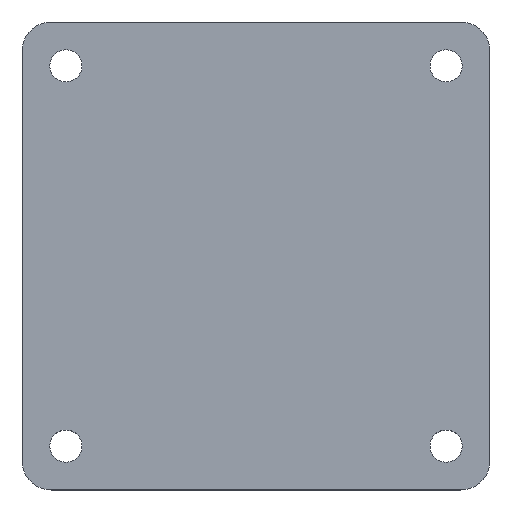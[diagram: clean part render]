
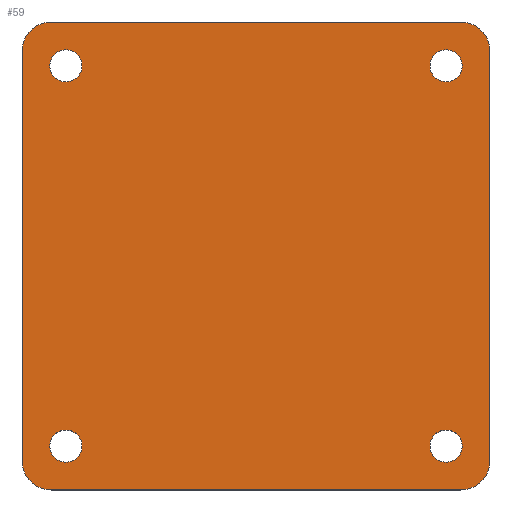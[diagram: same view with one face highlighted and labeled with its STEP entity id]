
A CAD part, top view. The second image highlights one B-rep face of the part: STEP entity #59.
In plain terms, the highlighted planar face has unit normal (0, 0, 1).
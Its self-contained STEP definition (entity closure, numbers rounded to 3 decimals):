
#21 = EDGE_CURVE('',#22,#24,#26,.T.);
#22 = VERTEX_POINT('',#23);
#23 = CARTESIAN_POINT('',(-44.,-22.,-18.8));
#24 = VERTEX_POINT('',#25);
#25 = CARTESIAN_POINT('',(-42.,-24.,-18.8));
#26 = CIRCLE('',#27,2.);
#27 = AXIS2_PLACEMENT_3D('',#28,#29,#30);
#28 = CARTESIAN_POINT('',(-42.,-22.,-18.8));
#29 = DIRECTION('',(0.,0.,1.));
#30 = DIRECTION('',(1.,0.,0.));
#59 = ADVANCED_FACE('',(#60,#120,#131,#142,#153),#164,.T.);
#60 = FACE_BOUND('',#61,.T.);
#61 = EDGE_LOOP('',(#62,#63,#71,#80,#88,#97,#105,#114));
#62 = ORIENTED_EDGE('',*,*,#21,.T.);
#63 = ORIENTED_EDGE('',*,*,#64,.T.);
#64 = EDGE_CURVE('',#24,#65,#67,.T.);
#65 = VERTEX_POINT('',#66);
#66 = CARTESIAN_POINT('',(-14.,-24.,-18.8));
#67 = LINE('',#68,#69);
#68 = CARTESIAN_POINT('',(-42.,-24.,-18.8));
#69 = VECTOR('',#70,1.);
#70 = DIRECTION('',(1.,0.,0.));
#71 = ORIENTED_EDGE('',*,*,#72,.T.);
#72 = EDGE_CURVE('',#65,#73,#75,.T.);
#73 = VERTEX_POINT('',#74);
#74 = CARTESIAN_POINT('',(-12.,-22.,-18.8));
#75 = CIRCLE('',#76,2.);
#76 = AXIS2_PLACEMENT_3D('',#77,#78,#79);
#77 = CARTESIAN_POINT('',(-14.,-22.,-18.8));
#78 = DIRECTION('',(0.,0.,1.));
#79 = DIRECTION('',(1.,0.,0.));
#80 = ORIENTED_EDGE('',*,*,#81,.T.);
#81 = EDGE_CURVE('',#73,#82,#84,.T.);
#82 = VERTEX_POINT('',#83);
#83 = CARTESIAN_POINT('',(-12.,6.,-18.8));
#84 = LINE('',#85,#86);
#85 = CARTESIAN_POINT('',(-12.,-22.,-18.8));
#86 = VECTOR('',#87,1.);
#87 = DIRECTION('',(0.,1.,0.));
#88 = ORIENTED_EDGE('',*,*,#89,.T.);
#89 = EDGE_CURVE('',#82,#90,#92,.T.);
#90 = VERTEX_POINT('',#91);
#91 = CARTESIAN_POINT('',(-14.,8.,-18.8));
#92 = CIRCLE('',#93,2.);
#93 = AXIS2_PLACEMENT_3D('',#94,#95,#96);
#94 = CARTESIAN_POINT('',(-14.,6.,-18.8));
#95 = DIRECTION('',(0.,0.,1.));
#96 = DIRECTION('',(1.,0.,0.));
#97 = ORIENTED_EDGE('',*,*,#98,.F.);
#98 = EDGE_CURVE('',#99,#90,#101,.T.);
#99 = VERTEX_POINT('',#100);
#100 = CARTESIAN_POINT('',(-42.,8.,-18.8));
#101 = LINE('',#102,#103);
#102 = CARTESIAN_POINT('',(-42.,8.,-18.8));
#103 = VECTOR('',#104,1.);
#104 = DIRECTION('',(1.,0.,0.));
#105 = ORIENTED_EDGE('',*,*,#106,.T.);
#106 = EDGE_CURVE('',#99,#107,#109,.T.);
#107 = VERTEX_POINT('',#108);
#108 = CARTESIAN_POINT('',(-44.,6.,-18.8));
#109 = CIRCLE('',#110,2.);
#110 = AXIS2_PLACEMENT_3D('',#111,#112,#113);
#111 = CARTESIAN_POINT('',(-42.,6.,-18.8));
#112 = DIRECTION('',(0.,0.,1.));
#113 = DIRECTION('',(1.,0.,0.));
#114 = ORIENTED_EDGE('',*,*,#115,.F.);
#115 = EDGE_CURVE('',#22,#107,#116,.T.);
#116 = LINE('',#117,#118);
#117 = CARTESIAN_POINT('',(-44.,-22.,-18.8));
#118 = VECTOR('',#119,1.);
#119 = DIRECTION('',(0.,1.,0.));
#120 = FACE_BOUND('',#121,.T.);
#121 = EDGE_LOOP('',(#122));
#122 = ORIENTED_EDGE('',*,*,#123,.F.);
#123 = EDGE_CURVE('',#124,#124,#126,.T.);
#124 = VERTEX_POINT('',#125);
#125 = CARTESIAN_POINT('',(-39.9,-21.,-18.8));
#126 = CIRCLE('',#127,1.1);
#127 = AXIS2_PLACEMENT_3D('',#128,#129,#130);
#128 = CARTESIAN_POINT('',(-41.,-21.,-18.8));
#129 = DIRECTION('',(0.,0.,1.));
#130 = DIRECTION('',(1.,0.,0.));
#131 = FACE_BOUND('',#132,.T.);
#132 = EDGE_LOOP('',(#133));
#133 = ORIENTED_EDGE('',*,*,#134,.F.);
#134 = EDGE_CURVE('',#135,#135,#137,.T.);
#135 = VERTEX_POINT('',#136);
#136 = CARTESIAN_POINT('',(-13.9,-21.,-18.8));
#137 = CIRCLE('',#138,1.1);
#138 = AXIS2_PLACEMENT_3D('',#139,#140,#141);
#139 = CARTESIAN_POINT('',(-15.,-21.,-18.8));
#140 = DIRECTION('',(0.,0.,1.));
#141 = DIRECTION('',(1.,0.,0.));
#142 = FACE_BOUND('',#143,.T.);
#143 = EDGE_LOOP('',(#144));
#144 = ORIENTED_EDGE('',*,*,#145,.F.);
#145 = EDGE_CURVE('',#146,#146,#148,.T.);
#146 = VERTEX_POINT('',#147);
#147 = CARTESIAN_POINT('',(-39.9,5.,-18.8));
#148 = CIRCLE('',#149,1.1);
#149 = AXIS2_PLACEMENT_3D('',#150,#151,#152);
#150 = CARTESIAN_POINT('',(-41.,5.,-18.8));
#151 = DIRECTION('',(0.,0.,1.));
#152 = DIRECTION('',(1.,0.,0.));
#153 = FACE_BOUND('',#154,.T.);
#154 = EDGE_LOOP('',(#155));
#155 = ORIENTED_EDGE('',*,*,#156,.F.);
#156 = EDGE_CURVE('',#157,#157,#159,.T.);
#157 = VERTEX_POINT('',#158);
#158 = CARTESIAN_POINT('',(-13.9,5.,-18.8));
#159 = CIRCLE('',#160,1.1);
#160 = AXIS2_PLACEMENT_3D('',#161,#162,#163);
#161 = CARTESIAN_POINT('',(-15.,5.,-18.8));
#162 = DIRECTION('',(0.,0.,1.));
#163 = DIRECTION('',(1.,0.,0.));
#164 = PLANE('',#165);
#165 = AXIS2_PLACEMENT_3D('',#166,#167,#168);
#166 = CARTESIAN_POINT('',(-28.,-8.,-18.8));
#167 = DIRECTION('',(0.,0.,1.));
#168 = DIRECTION('',(1.,0.,0.));
